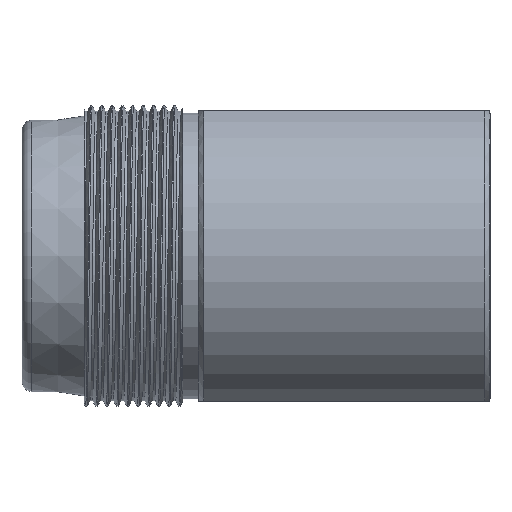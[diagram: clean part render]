
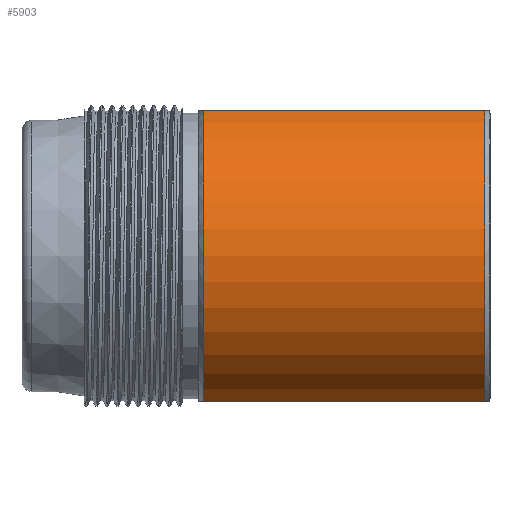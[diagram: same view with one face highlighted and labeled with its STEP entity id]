
A CAD part, top view. The second image highlights one B-rep face of the part: STEP entity #5903.
In plain terms, the highlighted cylindrical face has radius 15 mm (diameter 30 mm), a partial arc.
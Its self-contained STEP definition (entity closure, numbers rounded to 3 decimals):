
#18 = CYLINDRICAL_SURFACE ( 'NONE', #3863, 15. ) ;
#37 = EDGE_CURVE ( 'NONE', #3074, #4524, #4566, .T. ) ;
#217 = EDGE_LOOP ( 'NONE', ( #2722, #4397, #2333, #1265 ) ) ;
#541 = DIRECTION ( 'NONE',  ( 0., 0., -1. ) ) ;
#568 = CARTESIAN_POINT ( 'NONE',  ( 0., 0., 0. ) ) ;
#781 = DIRECTION ( 'NONE',  ( 0., 0., 1. ) ) ;
#919 = DIRECTION ( 'NONE',  ( -1., 0., 0. ) ) ;
#1010 = EDGE_CURVE ( 'NONE', #6000, #4524, #4916, .T. ) ;
#1022 = CIRCLE ( 'NONE', #3279, 15. ) ;
#1265 = ORIENTED_EDGE ( 'NONE', *, *, #37, .T. ) ;
#1421 = CARTESIAN_POINT ( 'NONE',  ( 0., 14., 5.385 ) ) ;
#1442 = CARTESIAN_POINT ( 'NONE',  ( -27.6, 14., 5.385 ) ) ;
#1635 = DIRECTION ( 'NONE',  ( -1., 0., 0. ) ) ;
#1897 = DIRECTION ( 'NONE',  ( 1., 0., 0. ) ) ;
#1962 = CARTESIAN_POINT ( 'NONE',  ( -0.5, 14., 5.385 ) ) ;
#1968 = DIRECTION ( 'NONE',  ( 1., 0., 0. ) ) ;
#2333 = ORIENTED_EDGE ( 'NONE', *, *, #5176, .F. ) ;
#2392 = VECTOR ( 'NONE', #1968, 1000. ) ;
#2638 = EDGE_CURVE ( 'NONE', #6000, #2743, #1022, .T. ) ;
#2708 = VECTOR ( 'NONE', #1635, 1000. ) ;
#2722 = ORIENTED_EDGE ( 'NONE', *, *, #1010, .F. ) ;
#2727 = CARTESIAN_POINT ( 'NONE',  ( -27.6, 0., 0. ) ) ;
#2743 = VERTEX_POINT ( 'NONE', #1962 ) ;
#3074 = VERTEX_POINT ( 'NONE', #1442 ) ;
#3161 = DIRECTION ( 'NONE',  ( 0., 0., -1. ) ) ;
#3248 = CARTESIAN_POINT ( 'NONE',  ( -0.5, 0., 0. ) ) ;
#3279 = AXIS2_PLACEMENT_3D ( 'NONE', #3248, #919, #3161 ) ;
#3518 = CARTESIAN_POINT ( 'NONE',  ( -27.6, -14., 5.385 ) ) ;
#3863 = AXIS2_PLACEMENT_3D ( 'NONE', #568, #1897, #541 ) ;
#4202 = CARTESIAN_POINT ( 'NONE',  ( -0.5, -14., 5.385 ) ) ;
#4397 = ORIENTED_EDGE ( 'NONE', *, *, #2638, .T. ) ;
#4524 = VERTEX_POINT ( 'NONE', #3518 ) ;
#4566 = CIRCLE ( 'NONE', #4958, 15. ) ;
#4916 = LINE ( 'NONE', #5751, #2708 ) ;
#4958 = AXIS2_PLACEMENT_3D ( 'NONE', #2727, #5456, #781 ) ;
#5176 = EDGE_CURVE ( 'NONE', #3074, #2743, #5684, .T. ) ;
#5456 = DIRECTION ( 'NONE',  ( 1., 0., 0. ) ) ;
#5671 = FACE_OUTER_BOUND ( 'NONE', #217, .T. ) ;
#5684 = LINE ( 'NONE', #1421, #2392 ) ;
#5751 = CARTESIAN_POINT ( 'NONE',  ( 0., -14., 5.385 ) ) ;
#5903 = ADVANCED_FACE ( 'NONE', ( #5671 ), #18, .T. ) ;
#6000 = VERTEX_POINT ( 'NONE', #4202 ) ;
